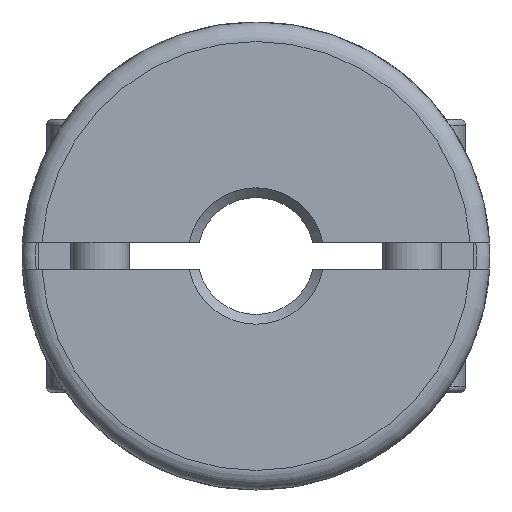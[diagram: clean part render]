
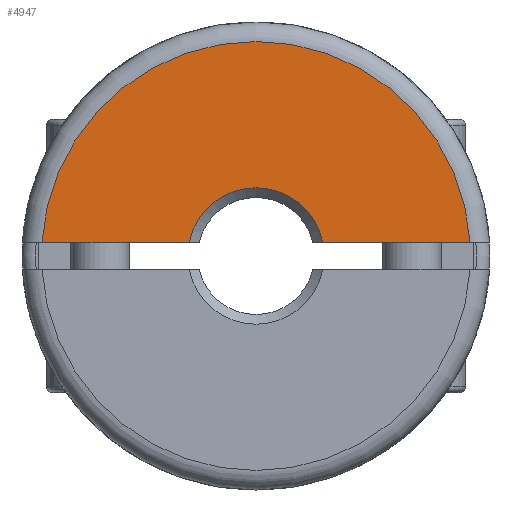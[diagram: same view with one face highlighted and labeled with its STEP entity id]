
A CAD part, left-side view. The second image highlights one B-rep face of the part: STEP entity #4947.
In plain terms, the highlighted planar face has unit normal (-1, 0, 0).
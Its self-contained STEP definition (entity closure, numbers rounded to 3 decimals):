
#114=LINE('',#7745,#274);
#127=LINE('',#7789,#287);
#274=VECTOR('',#6208,1000.);
#287=VECTOR('',#6239,1000.);
#542=PLANE('',#5368);
#1312=ORIENTED_EDGE('',*,*,#1831,.T.);
#1313=ORIENTED_EDGE('',*,*,#1739,.T.);
#1314=ORIENTED_EDGE('',*,*,#1811,.T.);
#1315=ORIENTED_EDGE('',*,*,#1747,.F.);
#1739=EDGE_CURVE('',#2118,#2116,#2378,.T.);
#1747=EDGE_CURVE('',#2125,#2123,#2382,.T.);
#1811=EDGE_CURVE('',#2116,#2123,#114,.T.);
#1831=EDGE_CURVE('',#2125,#2118,#127,.T.);
#2116=VERTEX_POINT('',#7350);
#2118=VERTEX_POINT('',#7353);
#2123=VERTEX_POINT('',#7400);
#2125=VERTEX_POINT('',#7407);
#2378=CIRCLE('',#5279,11.);
#2382=CIRCLE('',#5285,3.5);
#2739=EDGE_LOOP('',(#1312,#1313,#1314,#1315));
#3089=FACE_BOUND('',#2739,.T.);
#4947=ADVANCED_FACE('',(#3089),#542,.T.);
#5279=AXIS2_PLACEMENT_3D('',#7352,#6078,#6079);
#5285=AXIS2_PLACEMENT_3D('',#7408,#6090,#6091);
#5368=AXIS2_PLACEMENT_3D('',#7850,#6288,#6289);
#6078=DIRECTION('',(-1.,0.,0.));
#6079=DIRECTION('',(0.,0.,-1.));
#6090=DIRECTION('',(-1.,0.,0.));
#6091=DIRECTION('',(0.,0.,-1.));
#6208=DIRECTION('',(0.,-1.,0.));
#6239=DIRECTION('',(0.,-1.,0.));
#6288=DIRECTION('',(-1.,0.,0.));
#6289=DIRECTION('',(0.,0.,-1.));
#7350=CARTESIAN_POINT('',(-18.782,10.978,0.7));
#7352=CARTESIAN_POINT('',(-18.782,0.,0.));
#7353=CARTESIAN_POINT('',(-18.782,-10.978,0.7));
#7400=CARTESIAN_POINT('',(-18.782,3.429,0.7));
#7407=CARTESIAN_POINT('',(-18.782,-3.429,0.7));
#7408=CARTESIAN_POINT('',(-18.782,0.,0.));
#7745=CARTESIAN_POINT('',(-18.782,-12.,0.7));
#7789=CARTESIAN_POINT('',(-18.782,-12.,0.7));
#7850=CARTESIAN_POINT('',(-18.782,-12.,0.));
